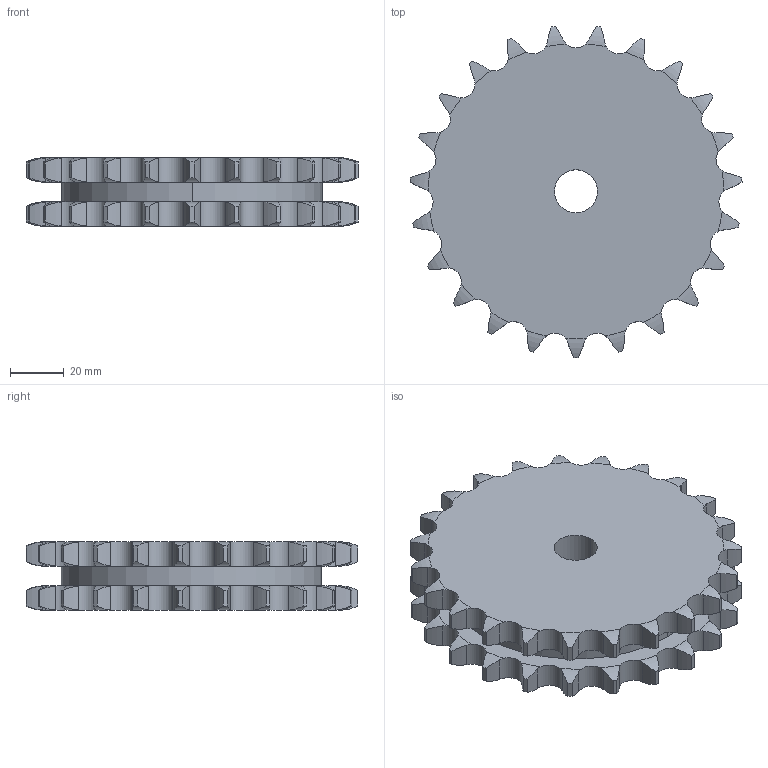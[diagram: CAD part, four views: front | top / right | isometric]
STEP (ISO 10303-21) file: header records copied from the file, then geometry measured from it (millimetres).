
FILE_DESCRIPTION((''),'2;1');
FILE_NAME('500-302-0023_PRT','2021-02-12T',('Brieden'),('Brieden'),'PRO/ENGINEER BY PARAMETRIC TECHNOLOGY CORPORATION, 2010160','PRO/ENGINEER BY PARAMETRIC TECHNOLOGY CORPORATION, 2010160','');
FILE_SCHEMA(('AUTOMOTIVE_DESIGN { 1 0 10303 214 1 1 1 1 }'));
Length unit declared in the file: millimetre
Products named in the file (1): 500-302-0023_PRT
Bounding box: 123.21 x 122.93 x 25.5 mm (x, y, z)
Volume: 228866.9 mm3; surface area: 37919.6 mm2
Topology: 1 solids, 1 shells, 284 faces, 840 edges, 560 vertices
Faces by surface type: cylinder 188, torus 92, plane 4
Entity records: 13698 total; most frequent: CARTESIAN_POINT 3959, ORIENTED_EDGE 1680, DIRECTION 1324, PRESENTATION_STYLE_ASSIGNMENT 841, STYLED_ITEM 841, CURVE_STYLE 840, EDGE_CURVE 840, AXIS2_PLACEMENT_3D 568
